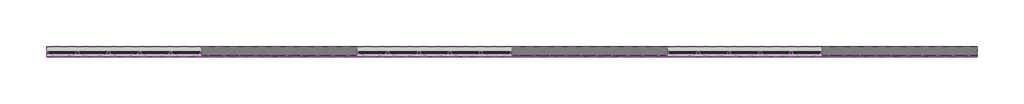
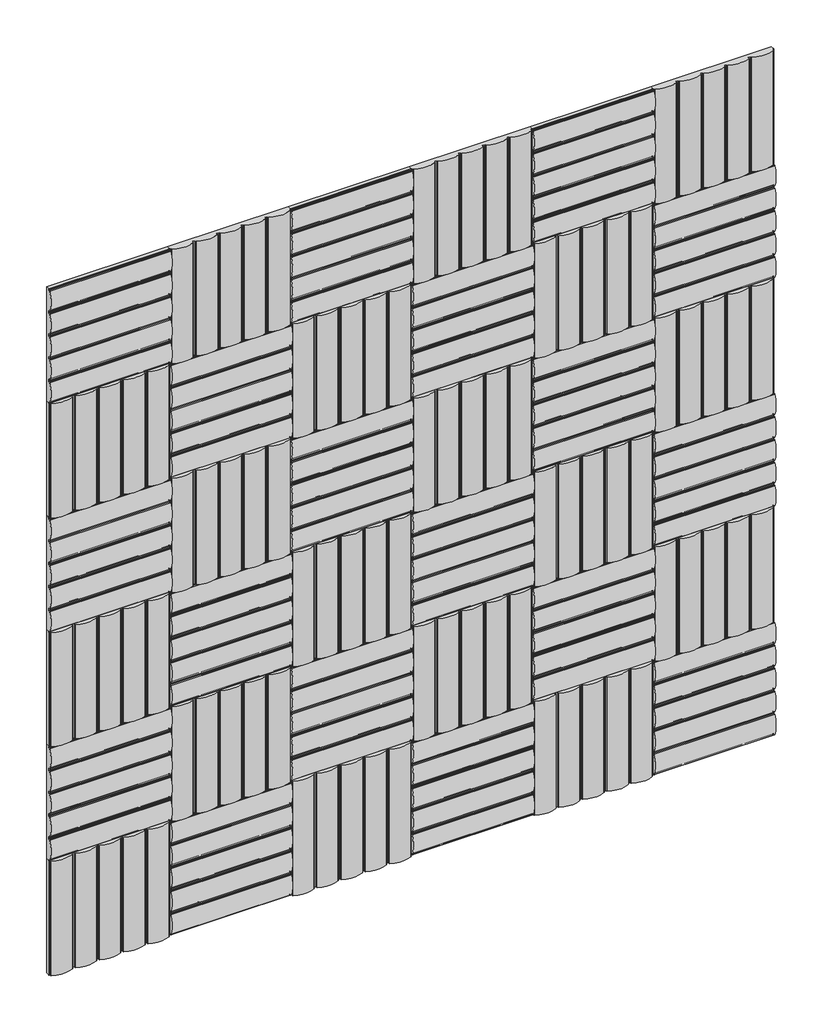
# One storey: 36 proxies.
"""IFC4 building model written with IfcOpenShell, lengths in millimetres."""

from ifc_helpers import new_model, si_unit, origin, place, context, project, spatial, transform, mapped, element, save
from components import specialty_equipment_0b573f12

model = new_model("IFC4")

# Units and contexts
model_context = context("Model", 3, world=origin())
ifc_project = project(units=[si_unit("LENGTHUNIT", "METRE", prefix="MILLI")], contexts=[model_context])

# Site, building, storey
site = spatial("IfcSite", under=ifc_project)
building = spatial("IfcBuilding", under=site)
storey = spatial("IfcBuildingStorey", under=building, Name="Nível 1", Elevation=0.0)

# Proxies
placement = place(None, origin())
specialty_equipment_shape = specialty_equipment_0b573f12(model_context)
element("IfcBuildingElementProxy", 1, Name="Spinneybeck_Porto 1 : Porto 1", ObjectType="Spinneybeck_Porto 1 : Porto 1", at=placement, inside=storey, context=model_context, shape_type="MappedRepresentation", body=[
    mapped(specialty_equipment_shape, transform((-6208.1950363, 552.5357437, 203.2), x_axis=(1.0, 0.0, 0.0), y_axis=(0.0, 0.0, 1.0), z_axis=(0.0, -1.0, 0.0))),
])
element("IfcBuildingElementProxy", 2, Name="Spinneybeck_Porto 1 : Porto 1", ObjectType="Spinneybeck_Porto 1 : Porto 1", at=placement, inside=storey, context=model_context, shape_type="MappedRepresentation", body=[
    mapped(specialty_equipment_shape, transform((-6208.1950363, 552.5357437, 609.6), x_axis=(0.0, 0.0, 1.0), y_axis=(-1.0, 0.0, 0.0), z_axis=(0.0, -1.0, 0.0))),
])
element("IfcBuildingElementProxy", 3, Name="Spinneybeck_Porto 1 : Porto 1", ObjectType="Spinneybeck_Porto 1 : Porto 1", at=placement, inside=storey, context=model_context, shape_type="MappedRepresentation", body=[
    mapped(specialty_equipment_shape, transform((-6208.1950363, 552.5357437, 1016.0), x_axis=(1.0, 0.0, 0.0), y_axis=(0.0, 0.0, 1.0), z_axis=(0.0, -1.0, 0.0))),
])
element("IfcBuildingElementProxy", 4, Name="Spinneybeck_Porto 1 : Porto 1", ObjectType="Spinneybeck_Porto 1 : Porto 1", at=placement, inside=storey, context=model_context, shape_type="MappedRepresentation", body=[
    mapped(specialty_equipment_shape, transform((-6208.1950363, 552.5357437, 1422.4), x_axis=(0.0, 0.0, 1.0), y_axis=(-1.0, 0.0, 0.0), z_axis=(0.0, -1.0, 0.0))),
])
element("IfcBuildingElementProxy", 5, Name="Spinneybeck_Porto 1 : Porto 1", ObjectType="Spinneybeck_Porto 1 : Porto 1", at=placement, inside=storey, context=model_context, shape_type="MappedRepresentation", body=[
    mapped(specialty_equipment_shape, transform((-6208.1950363, 552.5357437, 1828.8), x_axis=(1.0, 0.0, 0.0), y_axis=(0.0, 0.0, 1.0), z_axis=(0.0, -1.0, 0.0))),
])
element("IfcBuildingElementProxy", 6, Name="Spinneybeck_Porto 1 : Porto 1", ObjectType="Spinneybeck_Porto 1 : Porto 1", at=placement, inside=storey, context=model_context, shape_type="MappedRepresentation", body=[
    mapped(specialty_equipment_shape, transform((-6208.1950363, 552.5357437, 2235.2), x_axis=(0.0, 0.0, 1.0), y_axis=(-1.0, 0.0, 0.0), z_axis=(0.0, -1.0, 0.0))),
])
element("IfcBuildingElementProxy", 7, Name="Spinneybeck_Porto 1 : Porto 1", ObjectType="Spinneybeck_Porto 1 : Porto 1", at=placement, inside=storey, context=model_context, shape_type="MappedRepresentation", body=[
    mapped(specialty_equipment_shape, transform((-5801.7950363, 552.5357437, 203.2), x_axis=(0.0, 0.0, 1.0), y_axis=(-1.0, 0.0, 0.0), z_axis=(0.0, -1.0, 0.0))),
])
element("IfcBuildingElementProxy", 8, Name="Spinneybeck_Porto 1 : Porto 1", ObjectType="Spinneybeck_Porto 1 : Porto 1", at=placement, inside=storey, context=model_context, shape_type="MappedRepresentation", body=[
    mapped(specialty_equipment_shape, transform((-5801.7950363, 552.5357437, 609.6), x_axis=(1.0, 0.0, 0.0), y_axis=(0.0, 0.0, 1.0), z_axis=(0.0, -1.0, 0.0))),
])
element("IfcBuildingElementProxy", 9, Name="Spinneybeck_Porto 1 : Porto 1", ObjectType="Spinneybeck_Porto 1 : Porto 1", at=placement, inside=storey, context=model_context, shape_type="MappedRepresentation", body=[
    mapped(specialty_equipment_shape, transform((-5801.7950363, 552.5357437, 1016.0), x_axis=(0.0, 0.0, 1.0), y_axis=(-1.0, 0.0, 0.0), z_axis=(0.0, -1.0, 0.0))),
])
element("IfcBuildingElementProxy", 10, Name="Spinneybeck_Porto 1 : Porto 1", ObjectType="Spinneybeck_Porto 1 : Porto 1", at=placement, inside=storey, context=model_context, shape_type="MappedRepresentation", body=[
    mapped(specialty_equipment_shape, transform((-5801.7950363, 552.5357437, 1422.4), x_axis=(1.0, 0.0, 0.0), y_axis=(0.0, 0.0, 1.0), z_axis=(0.0, -1.0, 0.0))),
])
element("IfcBuildingElementProxy", 11, Name="Spinneybeck_Porto 1 : Porto 1", ObjectType="Spinneybeck_Porto 1 : Porto 1", at=placement, inside=storey, context=model_context, shape_type="MappedRepresentation", body=[
    mapped(specialty_equipment_shape, transform((-5801.7950363, 552.5357437, 1828.8), x_axis=(0.0, 0.0, 1.0), y_axis=(-1.0, 0.0, 0.0), z_axis=(0.0, -1.0, 0.0))),
])
element("IfcBuildingElementProxy", 12, Name="Spinneybeck_Porto 1 : Porto 1", ObjectType="Spinneybeck_Porto 1 : Porto 1", at=placement, inside=storey, context=model_context, shape_type="MappedRepresentation", body=[
    mapped(specialty_equipment_shape, transform((-5801.7950363, 552.5357437, 2235.2), x_axis=(1.0, 0.0, 0.0), y_axis=(0.0, 0.0, 1.0), z_axis=(0.0, -1.0, 0.0))),
])
element("IfcBuildingElementProxy", 13, Name="Spinneybeck_Porto 1 : Porto 1", ObjectType="Spinneybeck_Porto 1 : Porto 1", at=placement, inside=storey, context=model_context, shape_type="MappedRepresentation", body=[
    mapped(specialty_equipment_shape, transform((-5395.3950363, 552.5357437, 203.2), x_axis=(1.0, 0.0, 0.0), y_axis=(0.0, 0.0, 1.0), z_axis=(0.0, -1.0, 0.0))),
])
element("IfcBuildingElementProxy", 14, Name="Spinneybeck_Porto 1 : Porto 1", ObjectType="Spinneybeck_Porto 1 : Porto 1", at=placement, inside=storey, context=model_context, shape_type="MappedRepresentation", body=[
    mapped(specialty_equipment_shape, transform((-5395.3950363, 552.5357437, 609.6), x_axis=(0.0, 0.0, 1.0), y_axis=(-1.0, 0.0, 0.0), z_axis=(0.0, -1.0, 0.0))),
])
element("IfcBuildingElementProxy", 15, Name="Spinneybeck_Porto 1 : Porto 1", ObjectType="Spinneybeck_Porto 1 : Porto 1", at=placement, inside=storey, context=model_context, shape_type="MappedRepresentation", body=[
    mapped(specialty_equipment_shape, transform((-5395.3950363, 552.5357437, 1016.0), x_axis=(1.0, 0.0, 0.0), y_axis=(0.0, 0.0, 1.0), z_axis=(0.0, -1.0, 0.0))),
])
element("IfcBuildingElementProxy", 16, Name="Spinneybeck_Porto 1 : Porto 1", ObjectType="Spinneybeck_Porto 1 : Porto 1", at=placement, inside=storey, context=model_context, shape_type="MappedRepresentation", body=[
    mapped(specialty_equipment_shape, transform((-5395.3950363, 552.5357437, 1422.4), x_axis=(0.0, 0.0, 1.0), y_axis=(-1.0, 0.0, 0.0), z_axis=(0.0, -1.0, 0.0))),
])
element("IfcBuildingElementProxy", 17, Name="Spinneybeck_Porto 1 : Porto 1", ObjectType="Spinneybeck_Porto 1 : Porto 1", at=placement, inside=storey, context=model_context, shape_type="MappedRepresentation", body=[
    mapped(specialty_equipment_shape, transform((-5395.3950363, 552.5357437, 1828.8), x_axis=(1.0, 0.0, 0.0), y_axis=(0.0, 0.0, 1.0), z_axis=(0.0, -1.0, 0.0))),
])
element("IfcBuildingElementProxy", 18, Name="Spinneybeck_Porto 1 : Porto 1", ObjectType="Spinneybeck_Porto 1 : Porto 1", at=placement, inside=storey, context=model_context, shape_type="MappedRepresentation", body=[
    mapped(specialty_equipment_shape, transform((-5395.3950363, 552.5357437, 2235.2), x_axis=(0.0, 0.0, 1.0), y_axis=(-1.0, 0.0, 0.0), z_axis=(0.0, -1.0, 0.0))),
])
element("IfcBuildingElementProxy", 19, Name="Spinneybeck_Porto 1 : Porto 1", ObjectType="Spinneybeck_Porto 1 : Porto 1", at=placement, inside=storey, context=model_context, shape_type="MappedRepresentation", body=[
    mapped(specialty_equipment_shape, transform((-4988.9950363, 552.5357437, 203.2), x_axis=(0.0, 0.0, 1.0), y_axis=(-1.0, 0.0, 0.0), z_axis=(0.0, -1.0, 0.0))),
])
element("IfcBuildingElementProxy", 20, Name="Spinneybeck_Porto 1 : Porto 1", ObjectType="Spinneybeck_Porto 1 : Porto 1", at=placement, inside=storey, context=model_context, shape_type="MappedRepresentation", body=[
    mapped(specialty_equipment_shape, transform((-4988.9950363, 552.5357437, 609.6), x_axis=(1.0, 0.0, 0.0), y_axis=(0.0, 0.0, 1.0), z_axis=(0.0, -1.0, 0.0))),
])
element("IfcBuildingElementProxy", 21, Name="Spinneybeck_Porto 1 : Porto 1", ObjectType="Spinneybeck_Porto 1 : Porto 1", at=placement, inside=storey, context=model_context, shape_type="MappedRepresentation", body=[
    mapped(specialty_equipment_shape, transform((-4988.9950363, 552.5357437, 1016.0), x_axis=(0.0, 0.0, 1.0), y_axis=(-1.0, 0.0, 0.0), z_axis=(0.0, -1.0, 0.0))),
])
element("IfcBuildingElementProxy", 22, Name="Spinneybeck_Porto 1 : Porto 1", ObjectType="Spinneybeck_Porto 1 : Porto 1", at=placement, inside=storey, context=model_context, shape_type="MappedRepresentation", body=[
    mapped(specialty_equipment_shape, transform((-4988.9950363, 552.5357437, 1422.4), x_axis=(1.0, 0.0, 0.0), y_axis=(0.0, 0.0, 1.0), z_axis=(0.0, -1.0, 0.0))),
])
element("IfcBuildingElementProxy", 23, Name="Spinneybeck_Porto 1 : Porto 1", ObjectType="Spinneybeck_Porto 1 : Porto 1", at=placement, inside=storey, context=model_context, shape_type="MappedRepresentation", body=[
    mapped(specialty_equipment_shape, transform((-4988.9950363, 552.5357437, 1828.8), x_axis=(0.0, 0.0, 1.0), y_axis=(-1.0, 0.0, 0.0), z_axis=(0.0, -1.0, 0.0))),
])
element("IfcBuildingElementProxy", 24, Name="Spinneybeck_Porto 1 : Porto 1", ObjectType="Spinneybeck_Porto 1 : Porto 1", at=placement, inside=storey, context=model_context, shape_type="MappedRepresentation", body=[
    mapped(specialty_equipment_shape, transform((-4988.9950363, 552.5357437, 2235.2), x_axis=(1.0, 0.0, 0.0), y_axis=(0.0, 0.0, 1.0), z_axis=(0.0, -1.0, 0.0))),
])
element("IfcBuildingElementProxy", 25, Name="Spinneybeck_Porto 1 : Porto 1", ObjectType="Spinneybeck_Porto 1 : Porto 1", at=placement, inside=storey, context=model_context, shape_type="MappedRepresentation", body=[
    mapped(specialty_equipment_shape, transform((-4582.5950363, 552.5357437, 203.2), x_axis=(1.0, 0.0, 0.0), y_axis=(0.0, 0.0, 1.0), z_axis=(0.0, -1.0, 0.0))),
])
element("IfcBuildingElementProxy", 26, Name="Spinneybeck_Porto 1 : Porto 1", ObjectType="Spinneybeck_Porto 1 : Porto 1", at=placement, inside=storey, context=model_context, shape_type="MappedRepresentation", body=[
    mapped(specialty_equipment_shape, transform((-4582.5950363, 552.5357437, 609.6), x_axis=(0.0, 0.0, 1.0), y_axis=(-1.0, 0.0, 0.0), z_axis=(0.0, -1.0, 0.0))),
])
element("IfcBuildingElementProxy", 27, Name="Spinneybeck_Porto 1 : Porto 1", ObjectType="Spinneybeck_Porto 1 : Porto 1", at=placement, inside=storey, context=model_context, shape_type="MappedRepresentation", body=[
    mapped(specialty_equipment_shape, transform((-4582.5950363, 552.5357437, 1016.0), x_axis=(1.0, 0.0, 0.0), y_axis=(0.0, 0.0, 1.0), z_axis=(0.0, -1.0, 0.0))),
])
element("IfcBuildingElementProxy", 28, Name="Spinneybeck_Porto 1 : Porto 1", ObjectType="Spinneybeck_Porto 1 : Porto 1", at=placement, inside=storey, context=model_context, shape_type="MappedRepresentation", body=[
    mapped(specialty_equipment_shape, transform((-4582.5950363, 552.5357437, 1422.4), x_axis=(0.0, 0.0, 1.0), y_axis=(-1.0, 0.0, 0.0), z_axis=(0.0, -1.0, 0.0))),
])
element("IfcBuildingElementProxy", 29, Name="Spinneybeck_Porto 1 : Porto 1", ObjectType="Spinneybeck_Porto 1 : Porto 1", at=placement, inside=storey, context=model_context, shape_type="MappedRepresentation", body=[
    mapped(specialty_equipment_shape, transform((-4582.5950363, 552.5357437, 1828.8), x_axis=(1.0, 0.0, 0.0), y_axis=(0.0, 0.0, 1.0), z_axis=(0.0, -1.0, 0.0))),
])
element("IfcBuildingElementProxy", 30, Name="Spinneybeck_Porto 1 : Porto 1", ObjectType="Spinneybeck_Porto 1 : Porto 1", at=placement, inside=storey, context=model_context, shape_type="MappedRepresentation", body=[
    mapped(specialty_equipment_shape, transform((-4582.5950363, 552.5357437, 2235.2), x_axis=(0.0, 0.0, 1.0), y_axis=(-1.0, 0.0, 0.0), z_axis=(0.0, -1.0, 0.0))),
])
element("IfcBuildingElementProxy", 31, Name="Spinneybeck_Porto 1 : Porto 1", ObjectType="Spinneybeck_Porto 1 : Porto 1", at=placement, inside=storey, context=model_context, shape_type="MappedRepresentation", body=[
    mapped(specialty_equipment_shape, transform((-4176.1950363, 552.5357437, 203.2), x_axis=(0.0, 0.0, 1.0), y_axis=(-1.0, 0.0, 0.0), z_axis=(0.0, -1.0, 0.0))),
])
element("IfcBuildingElementProxy", 32, Name="Spinneybeck_Porto 1 : Porto 1", ObjectType="Spinneybeck_Porto 1 : Porto 1", at=placement, inside=storey, context=model_context, shape_type="MappedRepresentation", body=[
    mapped(specialty_equipment_shape, transform((-4176.1950363, 552.5357437, 609.6), x_axis=(1.0, 0.0, 0.0), y_axis=(0.0, 0.0, 1.0), z_axis=(0.0, -1.0, 0.0))),
])
element("IfcBuildingElementProxy", 33, Name="Spinneybeck_Porto 1 : Porto 1", ObjectType="Spinneybeck_Porto 1 : Porto 1", at=placement, inside=storey, context=model_context, shape_type="MappedRepresentation", body=[
    mapped(specialty_equipment_shape, transform((-4176.1950363, 552.5357437, 1016.0), x_axis=(0.0, 0.0, 1.0), y_axis=(-1.0, 0.0, 0.0), z_axis=(0.0, -1.0, 0.0))),
])
element("IfcBuildingElementProxy", 34, Name="Spinneybeck_Porto 1 : Porto 1", ObjectType="Spinneybeck_Porto 1 : Porto 1", at=placement, inside=storey, context=model_context, shape_type="MappedRepresentation", body=[
    mapped(specialty_equipment_shape, transform((-4176.1950363, 552.5357437, 1422.4), x_axis=(1.0, 0.0, 0.0), y_axis=(0.0, 0.0, 1.0), z_axis=(0.0, -1.0, 0.0))),
])
element("IfcBuildingElementProxy", 35, Name="Spinneybeck_Porto 1 : Porto 1", ObjectType="Spinneybeck_Porto 1 : Porto 1", at=placement, inside=storey, context=model_context, shape_type="MappedRepresentation", body=[
    mapped(specialty_equipment_shape, transform((-4176.1950363, 552.5357437, 1828.8), x_axis=(0.0, 0.0, 1.0), y_axis=(-1.0, 0.0, 0.0), z_axis=(0.0, -1.0, 0.0))),
])
element("IfcBuildingElementProxy", 36, Name="Spinneybeck_Porto 1 : Porto 1", ObjectType="Spinneybeck_Porto 1 : Porto 1", at=placement, inside=storey, context=model_context, shape_type="MappedRepresentation", body=[
    mapped(specialty_equipment_shape, transform((-4176.1950363, 552.5357437, 2235.2), x_axis=(1.0, 0.0, 0.0), y_axis=(0.0, 0.0, 1.0), z_axis=(0.0, -1.0, 0.0))),
])

save(model, "model.ifc")
